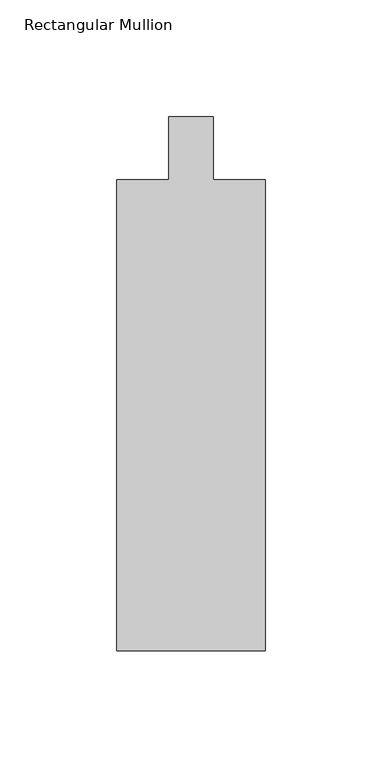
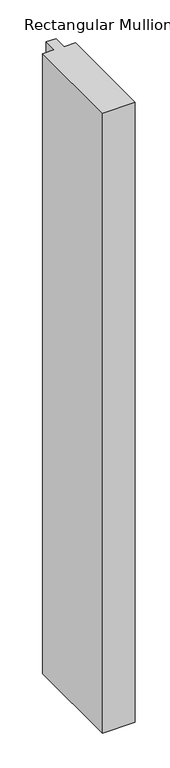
"""IFC4 building model written with IfcOpenShell, lengths in millimetres: member geometry."""

import ifcopenshell
import ifcopenshell.guid

model = None  # the IFC model being written
_history = None  # IfcOwnerHistory: only IFC2X3 demands one
_inside = {}  # id of a spatial element -> (the spatial element, [elements in it])
_under = {}  # id of a project, library or spatial element -> (it, [spatial elements below it])
_declared = {}  # id of a project -> (the project, [libraries it declares])
_typed = {}  # id of a type object -> (the type object, [elements of that type])
_made_of = {}  # id of a material, layer set ... -> (it, [elements and type objects made of it])


def new_model(schema):
    """Start an empty IFC model of exactly this schema.

    Asked for "IFC4X3", IfcOpenShell would pick the latest addendum, in which some entities
    have other attributes; the version numbers below select the first issue.
    IFC2X3 requires an IfcOwnerHistory on every rooted entity: one is made here for all.
    """
    global model, _history
    if schema == "IFC4X3":
        model = ifcopenshell.file(schema_version=(4, 3, 0, 0))
    else:
        model = ifcopenshell.file(schema=schema)
    _inside.clear()
    _under.clear()
    _declared.clear()
    _typed.clear()
    _made_of.clear()
    _history = None
    if model.schema == "IFC2X3":
        org = make("IfcOrganization", Name="unknown")
        user = make(
            "IfcPersonAndOrganization",
            ThePerson=make("IfcPerson", FamilyName="unknown"),
            TheOrganization=org,
        )
        app = make(
            "IfcApplication",
            ApplicationDeveloper=org,
            Version="unknown",
            ApplicationFullName="unknown",
            ApplicationIdentifier="unknown",
        )
        _history = make(
            "IfcOwnerHistory",
            OwningUser=user,
            OwningApplication=app,
            ChangeAction="ADDED",
            CreationDate=0,
        )
    return model


def make(cls, **values):
    """One entity of the class cls with the attributes given. An attribute that is None is left unset."""
    return model.create_entity(
        cls, **{name: value for name, value in values.items() if value is not None}
    )


def rooted(cls, **values):
    """An entity with a GlobalId (a new one), such as an element, a storey or a relation."""
    return make(cls, GlobalId=ifcopenshell.guid.new(), OwnerHistory=_history, **values)


def si_unit(unit_type, name, prefix=None):
    """IfcSIUnit, for example si_unit("LENGTHUNIT", "METRE", prefix="MILLI")."""
    return make("IfcSIUnit", UnitType=unit_type, Prefix=prefix, Name=name)


def assignment(units):
    """IfcUnitAssignment: the units of a project."""
    return None if units is None else make("IfcUnitAssignment", Units=units)


def point(xyz):
    """IfcCartesianPoint."""
    return None if xyz is None else make("IfcCartesianPoint", Coordinates=xyz)


def direction(xyz):
    """IfcDirection."""
    return None if xyz is None else make("IfcDirection", DirectionRatios=xyz)


def frame(location, z_axis=None, x_axis=None):
    """IfcAxis2Placement3D, a coordinate frame: its origin and axes. An axis left out is left unset."""
    return make(
        "IfcAxis2Placement3D",
        Location=point(location),
        Axis=direction(z_axis),
        RefDirection=direction(x_axis),
    )


def origin():
    """The frame at (0, 0, 0) with its axes left unset."""
    return frame((0.0, 0.0, 0.0))


def place(relative_to, where):
    """IfcLocalPlacement: puts the frame where relative to a parent placement (None: the world)."""
    return make(
        "IfcLocalPlacement", PlacementRelTo=relative_to, RelativePlacement=where
    )


def context(
    kind, dimensions, precision=None, world=None, true_north=None, identifier=None
):
    """IfcGeometricRepresentationContext, for example the 3D "Model" context."""
    return make(
        "IfcGeometricRepresentationContext",
        ContextIdentifier=identifier,
        ContextType=kind,
        CoordinateSpaceDimension=dimensions,
        Precision=precision,
        WorldCoordinateSystem=world,
        TrueNorth=true_north,
    )


def project(units=None, contexts=None):
    """IfcProject with its units and contexts."""
    return rooted(
        "IfcProject",
        Name="project",
        RepresentationContexts=contexts,
        UnitsInContext=assignment(units),
    )


def spatial(cls, under=None, at=None, **own):
    """A site, building, storey or space (cls), placed at a placement, below another one or the project."""
    s = rooted(cls, ObjectPlacement=at, **own)
    if under is not None:
        _under.setdefault(under.id(), (under, []))[1].append(s)
    return s


def polyline(points):
    """IfcPolyline through the points."""
    return make("IfcPolyline", Points=[point(p) for p in points])


def outline(outer, holes=None, kind="AREA"):
    """IfcArbitraryClosedProfileDef: a profile drawn as a closed curve; with holes, ...WithVoids."""
    if holes is None:
        return make("IfcArbitraryClosedProfileDef", ProfileType=kind, OuterCurve=outer)
    return make(
        "IfcArbitraryProfileDefWithVoids",
        ProfileType=kind,
        OuterCurve=outer,
        InnerCurves=holes,
    )


def extrude(swept, where, along, depth):
    """IfcExtrudedAreaSolid: the profile swept, set in the frame where, extruded along a direction by depth."""
    return make(
        "IfcExtrudedAreaSolid",
        SweptArea=swept,
        Position=where,
        ExtrudedDirection=direction(along),
        Depth=depth,
    )


def shape(context_of_items, identifier, shape_type, items):
    """IfcShapeRepresentation: the items that make up one representation, for example the "Body"."""
    return make(
        "IfcShapeRepresentation",
        ContextOfItems=context_of_items,
        RepresentationIdentifier=identifier,
        RepresentationType=shape_type,
        Items=items,
    )


def source(mapping_origin, context_of_items, identifier, shape_type, items):
    """IfcRepresentationMap: a shape defined once, which mapped items show again and again."""
    return make(
        "IfcRepresentationMap",
        MappingOrigin=mapping_origin,
        MappedRepresentation=shape(context_of_items, identifier, shape_type, items),
    )


def transform(
    local_origin,
    x_axis=None,
    y_axis=None,
    z_axis=None,
    scale=None,
    scale2=None,
    scale3=None,
    uniform=True,
):
    """IfcCartesianTransformationOperator3D, or its non-uniform kind. x_axis, y_axis, z_axis: its Axis1, 2, 3."""
    if uniform:
        return make(
            "IfcCartesianTransformationOperator3D",
            Axis1=direction(x_axis),
            Axis2=direction(y_axis),
            LocalOrigin=point(local_origin),
            Scale=scale,
            Axis3=direction(z_axis),
        )
    return make(
        "IfcCartesianTransformationOperator3DnonUniform",
        Axis1=direction(x_axis),
        Axis2=direction(y_axis),
        LocalOrigin=point(local_origin),
        Scale=scale,
        Axis3=direction(z_axis),
        Scale2=scale2,
        Scale3=scale3,
    )


def mapped(mapping_source, mapping_target):
    """IfcMappedItem: shows the shape of a source again, moved by a transform."""
    return make(
        "IfcMappedItem", MappingSource=mapping_source, MappingTarget=mapping_target
    )


def made_of(thing, what):
    """Note that an element or type object is made of a material, layer set ...; save() writes the relation."""
    if what is not None:
        _made_of.setdefault(what.id(), (what, []))[1].append(thing)
    return thing


def element(
    cls,
    number,
    at=None,
    inside=None,
    cuts=None,
    type_object=None,
    material=None,
    context=None,
    identifier="Body",
    shape_type=None,
    held_by="IfcProductDefinitionShape",
    body=None,
    shapes=None,
    **own,
):
    """One element of the class cls, such as IfcWall. Its Tag is "e" and its number.

    at: its placement. inside: the storey or other place that contains it. cuts: it is an
    opening in that element (IfcRelVoidsElement). A single representation is given by context,
    identifier, shape_type and body (its items); several are given by shapes. held_by: the class
    of the entity that holds the representations. save() writes the other relations.
    """
    e = rooted(cls, Tag="e%d" % number, ObjectPlacement=at, **own)
    if body is not None:
        shapes = [shape(context, identifier, shape_type, body)]
    if shapes is not None:
        e.Representation = make(held_by, Representations=shapes)
    if inside is not None:
        _inside.setdefault(inside.id(), (inside, []))[1].append(e)
    if cuts is not None:
        rooted(
            "IfcRelVoidsElement", RelatingBuildingElement=cuts, RelatedOpeningElement=e
        )
    if type_object is not None:
        _typed.setdefault(type_object.id(), (type_object, []))[1].append(e)
    return made_of(e, material)


def aggregate(whole, parts):
    """IfcRelAggregates: a whole, such as a stair, and the parts it consists of."""
    return rooted("IfcRelAggregates", RelatingObject=whole, RelatedObjects=parts)


def save(model, path):
    """Write the relations noted so far, then the file.

    IfcRelAggregates (storeys below a building ...), IfcRelContainedInSpatialStructure (elements
    in a storey), IfcRelDefinesByType, IfcRelAssociatesMaterial and IfcRelDeclares: one each for
    every whole, place, type object, material and project.
    """
    for whole, parts in _under.values():
        aggregate(whole, parts)
    for where, things in _inside.values():
        rooted(
            "IfcRelContainedInSpatialStructure",
            RelatedElements=things,
            RelatingStructure=where,
        )
    for kind, things in _typed.values():
        rooted("IfcRelDefinesByType", RelatedObjects=things, RelatingType=kind)
    for what, things in _made_of.values():
        rooted("IfcRelAssociatesMaterial", RelatedObjects=things, RelatingMaterial=what)
    for by, libraries in _declared.values():
        rooted("IfcRelDeclares", RelatingContext=by, RelatedDefinitions=libraries)
    model.write(path)


def rectangular_mullion_770be2c8(model_context):
    return source(origin(), model_context, "Body", "SweptSolid", [
        extrude(outline(polyline([(-63.5, -228.6), (-63.5, -26.9875), (-41.275, -26.9875), (-41.275, 0.0), (-22.225, 0.0), (-22.225, -26.9875), (0.0, -26.9875), (0.0, -228.6), (-63.5, -228.6)])), frame((0.0, 0.0, -1276.35), z_axis=(0.0, 0.0, 1.0), x_axis=(1.0, 0.0, 0.0)), (0.0, 0.0, 1.0), 1276.35),
    ])


if __name__ == "__main__":
    model = new_model("IFC4")
    model_context = context("Model", 3, world=origin())
    ifc_project = project(units=[si_unit("LENGTHUNIT", "METRE", prefix="MILLI")], contexts=[model_context])
    site = spatial("IfcSite", under=ifc_project)
    building = spatial("IfcBuilding", under=site)
    placement = place(None, origin())
    rectangular_mullion_shape = rectangular_mullion_770be2c8(model_context)
    element("IfcMember", 1, ObjectType="Rectangular Mullion : 2 1/2\" x 8\" - Capless", at=placement, inside=building, context=model_context, shape_type="MappedRepresentation", body=[
        mapped(rectangular_mullion_shape, transform((0.0, 0.0, 0.0), x_axis=(1.0, 0.0, 0.0), y_axis=(0.0, 1.0, 0.0), z_axis=(0.0, 0.0, 1.0))),
    ])
    save(model, "model.ifc")
